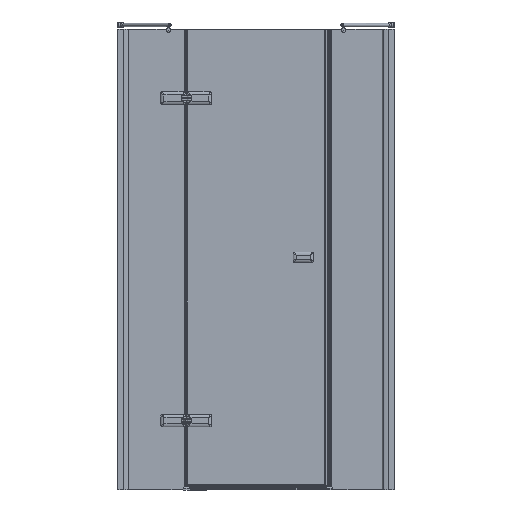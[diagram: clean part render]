
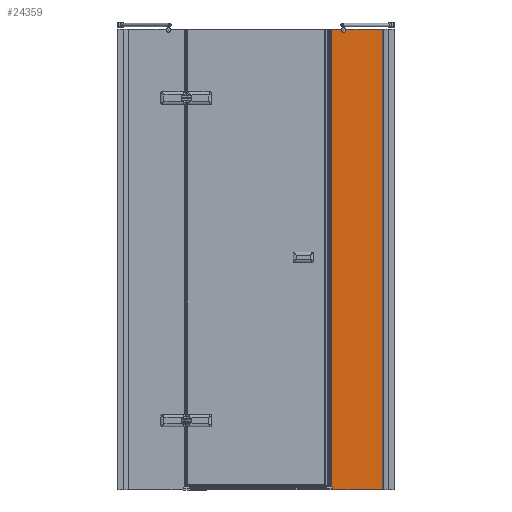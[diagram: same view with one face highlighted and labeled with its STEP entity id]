
A CAD part, front view. The second image highlights one B-rep face of the part: STEP entity #24359.
In plain terms, the highlighted planar face has unit normal (0, -1, 0).
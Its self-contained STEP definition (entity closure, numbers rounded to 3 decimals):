
#1685=LINE($,#54700,#3831);
#1724=LINE($,#55049,#3870);
#1725=LINE($,#55051,#3871);
#1726=LINE($,#55055,#3872);
#1727=LINE($,#55057,#3873);
#1728=LINE($,#55058,#3874);
#3831=VECTOR($,#31257,44.666);
#3870=VECTOR($,#31386,1998.);
#3871=VECTOR($,#31387,4.);
#3872=VECTOR($,#31390,217.);
#3873=VECTOR($,#31391,2000.);
#3874=VECTOR($,#31392,160.474);
#6214=FACE_OUTER_BOUND($,#7666,.T.);
#7666=EDGE_LOOP($,(#19151,#19152,#19153,#19154,#19155,#19156,#19157,#19158));
#8827=CIRCLE($,#26326,10.);
#8836=CIRCLE($,#26348,2.);
#10591=VERTEX_POINT($,#54697);
#10592=VERTEX_POINT($,#54699);
#10644=VERTEX_POINT($,#54846);
#10661=VERTEX_POINT($,#55048);
#10662=VERTEX_POINT($,#55050);
#10663=VERTEX_POINT($,#55052);
#10664=VERTEX_POINT($,#55054);
#10665=VERTEX_POINT($,#55056);
#13524=EDGE_CURVE($,#10591,#10592,#1685,.T.);
#13581=EDGE_CURVE($,#10592,#10644,#8827,.T.);
#13605=EDGE_CURVE($,#10591,#10661,#1724,.T.);
#13606=EDGE_CURVE($,#10662,#10661,#1725,.T.);
#13607=EDGE_CURVE($,#10663,#10662,#8836,.T.);
#13608=EDGE_CURVE($,#10663,#10664,#1726,.T.);
#13609=EDGE_CURVE($,#10665,#10664,#1727,.T.);
#13610=EDGE_CURVE($,#10644,#10665,#1728,.T.);
#19151=ORIENTED_EDGE($,*,*,#13581,.F.);
#19152=ORIENTED_EDGE($,*,*,#13524,.F.);
#19153=ORIENTED_EDGE($,*,*,#13605,.T.);
#19154=ORIENTED_EDGE($,*,*,#13606,.F.);
#19155=ORIENTED_EDGE($,*,*,#13607,.F.);
#19156=ORIENTED_EDGE($,*,*,#13608,.T.);
#19157=ORIENTED_EDGE($,*,*,#13609,.F.);
#19158=ORIENTED_EDGE($,*,*,#13610,.F.);
#21930=PLANE($,#26347);
#24359=ADVANCED_FACE($,(#6214),#21930,.F.);
#26326=AXIS2_PLACEMENT_3D($,#54847,#31335,#31336);
#26347=AXIS2_PLACEMENT_3D($,#55047,#31384,#31385);
#26348=AXIS2_PLACEMENT_3D($,#55053,#31388,#31389);
#31257=DIRECTION($,(1.,0.,0.));
#31335=DIRECTION('center_axis',(0.,-1.,0.));
#31336=DIRECTION('ref_axis',(0.597,0.,0.802));
#31384=DIRECTION('center_axis',(0.,1.,0.));
#31385=DIRECTION('ref_axis',(1.,0.,0.));
#31386=DIRECTION($,(0.,0.,-1.));
#31387=DIRECTION($,(-1.,0.,0.));
#31388=DIRECTION('center_axis',(0.,-1.,0.));
#31389=DIRECTION('ref_axis',(0.707,0.,0.707));
#31390=DIRECTION($,(1.,0.,0.));
#31391=DIRECTION($,(0.,0.,-1.));
#31392=DIRECTION($,(1.,0.,0.));
#54697=CARTESIAN_POINT('',(2559.686,45.956,1485.944));
#54699=CARTESIAN_POINT('',(2604.351,45.956,1485.944));
#54700=CARTESIAN_POINT($,(2554.686,45.956,1485.944));
#54846=CARTESIAN_POINT('',(2622.212,45.956,1485.944));
#54847=CARTESIAN_POINT('Origin',(2613.281,45.956,1481.444));
#55047=CARTESIAN_POINT('Origin',(2554.686,45.956,1485.944));
#55048=CARTESIAN_POINT('',(2559.686,45.956,-512.056));
#55049=CARTESIAN_POINT($,(2559.686,45.956,1485.944));
#55050=CARTESIAN_POINT('',(2563.686,45.956,-512.056));
#55051=CARTESIAN_POINT($,(2559.186,45.956,-512.056));
#55052=CARTESIAN_POINT('',(2565.686,45.956,-514.056));
#55053=CARTESIAN_POINT('Origin',(2563.686,45.956,-514.056));
#55054=CARTESIAN_POINT('',(2782.686,45.956,-514.056));
#55055=CARTESIAN_POINT($,(2554.686,45.956,-514.056));
#55056=CARTESIAN_POINT('',(2782.686,45.956,1485.944));
#55057=CARTESIAN_POINT($,(2782.686,45.956,485.944));
#55058=CARTESIAN_POINT($,(2554.686,45.956,1485.944));
